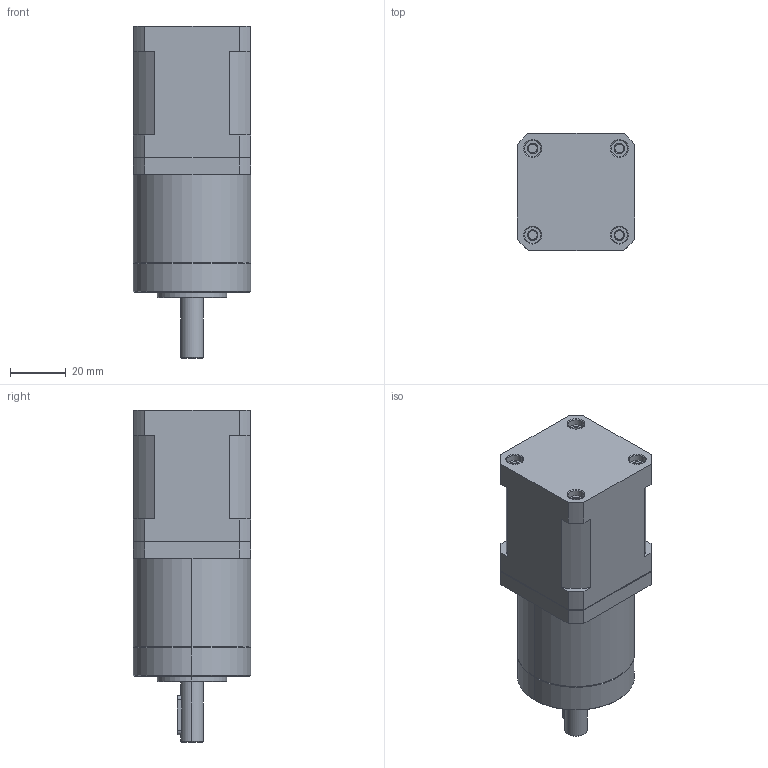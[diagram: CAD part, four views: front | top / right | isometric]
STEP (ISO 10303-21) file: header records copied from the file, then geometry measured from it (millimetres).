
FILE_DESCRIPTION (( 'STEP AP203' ), '1' );
FILE_NAME ('YK42H47-PG15.STEP', '2021-06-02T06:11:12', ( 'Admin' ), ( '' ), 'SwSTEP 2.0', 'SolidWorks 2016', '' );
FILE_SCHEMA (( 'CONFIG_CONTROL_DESIGN' ));
Length unit declared in the file: millimetre
Products named in the file (1): YK42H47-PG15
Bounding box: 42 x 42 x 118.8 mm (x, y, z)
Volume: 149876.8 mm3; surface area: 19059.1 mm2
Topology: 1 solids, 2 shells, 152 faces, 341 edges, 204 vertices
Faces by surface type: cylinder 57, cone 48, plane 45, torus 2
Entity records: 4298 total; most frequent: DIRECTION 787, CARTESIAN_POINT 767, ORIENTED_EDGE 666, EDGE_CURVE 333, AXIS2_PLACEMENT_3D 312, VERTEX_POINT 204, EDGE_LOOP 173, LINE 163
